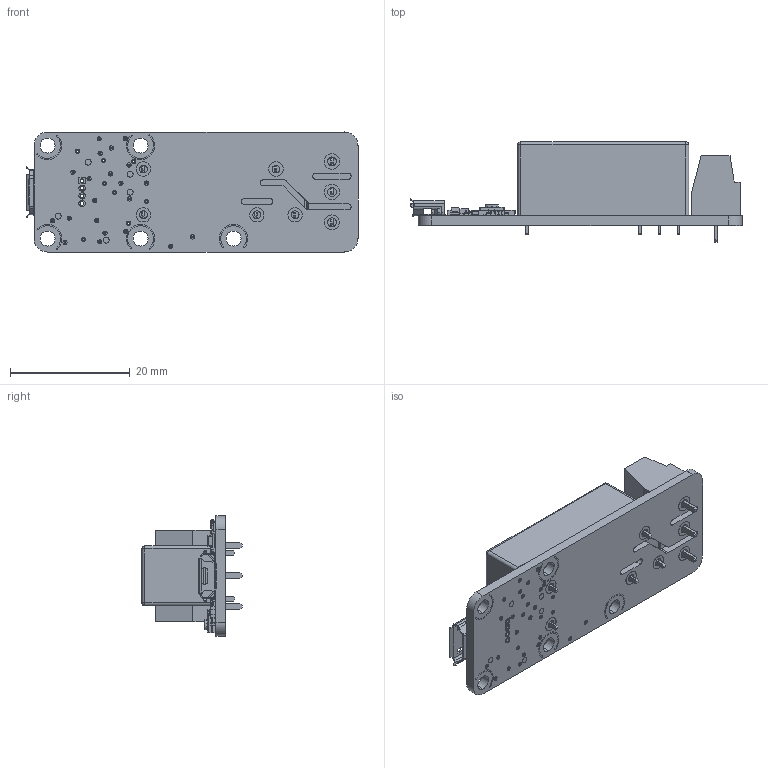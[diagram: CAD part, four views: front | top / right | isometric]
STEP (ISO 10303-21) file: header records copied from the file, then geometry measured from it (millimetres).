
FILE_DESCRIPTION (( 'STEP AP214' ), '1' );
FILE_NAME ('yoctorelayHiPower3.STEP', '2021-03-22T10:14:36', ( '' ), ( '' ), 'SwSTEP 2.0', 'SolidWorks 2008', '' );
FILE_SCHEMA (( 'AUTOMOTIVE_DESIGN' ));
Length unit declared in the file: millimetre
Products named in the file (26): CRCW06031R00FNEA; C2012X7R2E472KT5; CRCW06031M00JNEB; CRCW0603150RFKEA; CRCW0603100KJNEA; C0805C105K4RACTU; GRM188R71E104KA01D; yoctorelayHiPower3; RK73H1JTTD4702F; CRCW060310K0JNEB; CRCW0603100RJNEB; TEST_POINT; PIC24FJ64GB002-I_ML; MCP1703T-3302E_CB; GRM188R60J105KA01D; ASMT-TGBM-NT502; FAN4010IL6X_F113; NUD3105LT1G; 691_213_710_003; C0603C106M9PACTU; KMR211NGLFS; ASMT-TBBM-NP902; ZX62-B-5PA(11); yoctorelayHiPower3OutLine; G6RL-14-ASI_DC5; GRM188R61C225KE15D
Assembly tree (28 placements, depth 2):
  yoctorelayHiPower3
    ASMT-TBBM-NP902
    GRM188R71E104KA01D  x4
    C0603C106M9PACTU
    C2012X7R2E472KT5
    MCP1703T-3302E_CB
    yoctorelayHiPower3OutLine
    ASMT-TGBM-NT502  x2
    C0805C105K4RACTU
    PIC24FJ64GB002-I_ML
    GRM188R61C225KE15D
    691_213_710_003
    CRCW0603150RFKEA
    CRCW0603100KJNEA
    KMR211NGLFS
    FAN4010IL6X_F113
    CRCW06031M00JNEB
    CRCW060310K0JNEB
    CRCW06031R00FNEA
    GRM188R60J105KA01D
    RK73H1JTTD4702F
    NUD3105LT1G
    ZX62-B-5PA(11)
    G6RL-14-ASI_DC5
    CRCW0603100RJNEB
  TEST_POINT
Bounding box: 55.35 x 16.7 x 20.02 mm (x, y, z)
Volume: 6200.2 mm3; surface area: 5560.5 mm2
Topology: 42 solids, 42 shells, 4333 faces, 11196 edges, 7262 vertices
Faces by surface type: plane 2717, cylinder 997, bspline 536, sphere 76, torus 7
Entity records: 193181 total; most frequent: CARTESIAN_POINT 53848, ORIENTED_EDGE 21336, DIRECTION 18748, EDGE_CURVE 10668, VECTOR 7630, LINE 7630, VERTEX_POINT 7004, AXIS2_PLACEMENT_3D 5559
